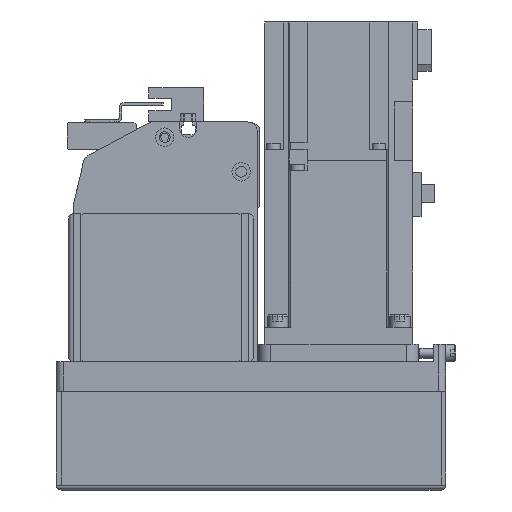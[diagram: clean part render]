
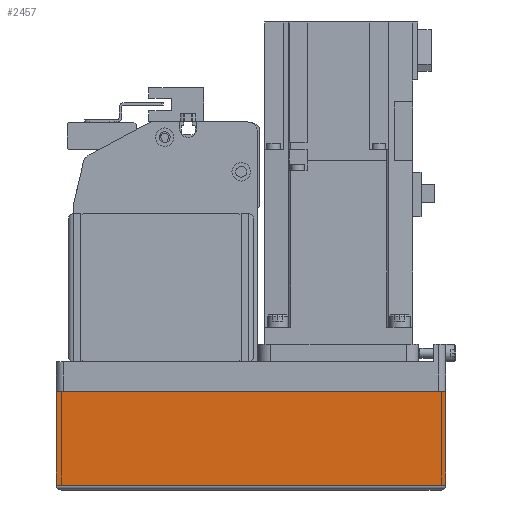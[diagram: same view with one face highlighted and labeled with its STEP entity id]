
A CAD part, left-side view. The second image highlights one B-rep face of the part: STEP entity #2457.
In plain terms, the highlighted planar face has unit normal (-1, 0, 0) as drawn and (0, 1, 0) by its records, which use the part's own axes.
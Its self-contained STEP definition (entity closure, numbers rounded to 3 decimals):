
#2457 = ADVANCED_FACE( '', ( #5330 ), #5331, .T. );
#5330 = FACE_OUTER_BOUND( '', #8575, .T. );
#5331 = PLANE( '', #8576 );
#8575 = EDGE_LOOP( '', ( #15630, #15631, #15632, #15633 ) );
#8576 = AXIS2_PLACEMENT_3D( '', #15634, #15635, #15636 );
#15630 = ORIENTED_EDGE( '', *, *, #19581, .F. );
#15631 = ORIENTED_EDGE( '', *, *, #19670, .F. );
#15632 = ORIENTED_EDGE( '', *, *, #20048, .T. );
#15633 = ORIENTED_EDGE( '', *, *, #21207, .T. );
#15634 = CARTESIAN_POINT( '', ( -158., 39., -50. ) );
#15635 = DIRECTION( '', ( 0., 1., 0. ) );
#15636 = DIRECTION( '', ( 0., 0., 1. ) );
#19581 = EDGE_CURVE( '', #23846, #23847, #23848, .T. );
#19670 = EDGE_CURVE( '', #22696, #23846, #23990, .T. );
#20048 = EDGE_CURVE( '', #22696, #24571, #24574, .T. );
#21207 = EDGE_CURVE( '', #24571, #23847, #26177, .T. );
#22696 = VERTEX_POINT( '', #28116 );
#23846 = VERTEX_POINT( '', #29856 );
#23847 = VERTEX_POINT( '', #29857 );
#23848 = LINE( '', #29858, #29859 );
#23990 = LINE( '', #30052, #30053 );
#24571 = VERTEX_POINT( '', #30926 );
#24574 = LINE( '', #30930, #30931 );
#26177 = LINE( '', #33451, #33452 );
#28116 = CARTESIAN_POINT( '', ( -158., 39., -50. ) );
#29856 = CARTESIAN_POINT( '', ( 0., 39., -50. ) );
#29857 = CARTESIAN_POINT( '', ( 0., 39., -12.1 ) );
#29858 = CARTESIAN_POINT( '', ( 0., 39., -50. ) );
#29859 = VECTOR( '', #35827, 1000. );
#30052 = CARTESIAN_POINT( '', ( -158., 39., -50. ) );
#30053 = VECTOR( '', #35943, 1000. );
#30926 = CARTESIAN_POINT( '', ( -158., 39., -12.1 ) );
#30930 = CARTESIAN_POINT( '', ( -158., 39., -50. ) );
#30931 = VECTOR( '', #36441, 1000. );
#33451 = CARTESIAN_POINT( '', ( -158., 39., -12.1 ) );
#33452 = VECTOR( '', #37713, 1000. );
#35827 = DIRECTION( '', ( 0., 0., 1. ) );
#35943 = DIRECTION( '', ( 1., 0., 0. ) );
#36441 = DIRECTION( '', ( 0., 0., 1. ) );
#37713 = DIRECTION( '', ( 1., 0., 0. ) );
